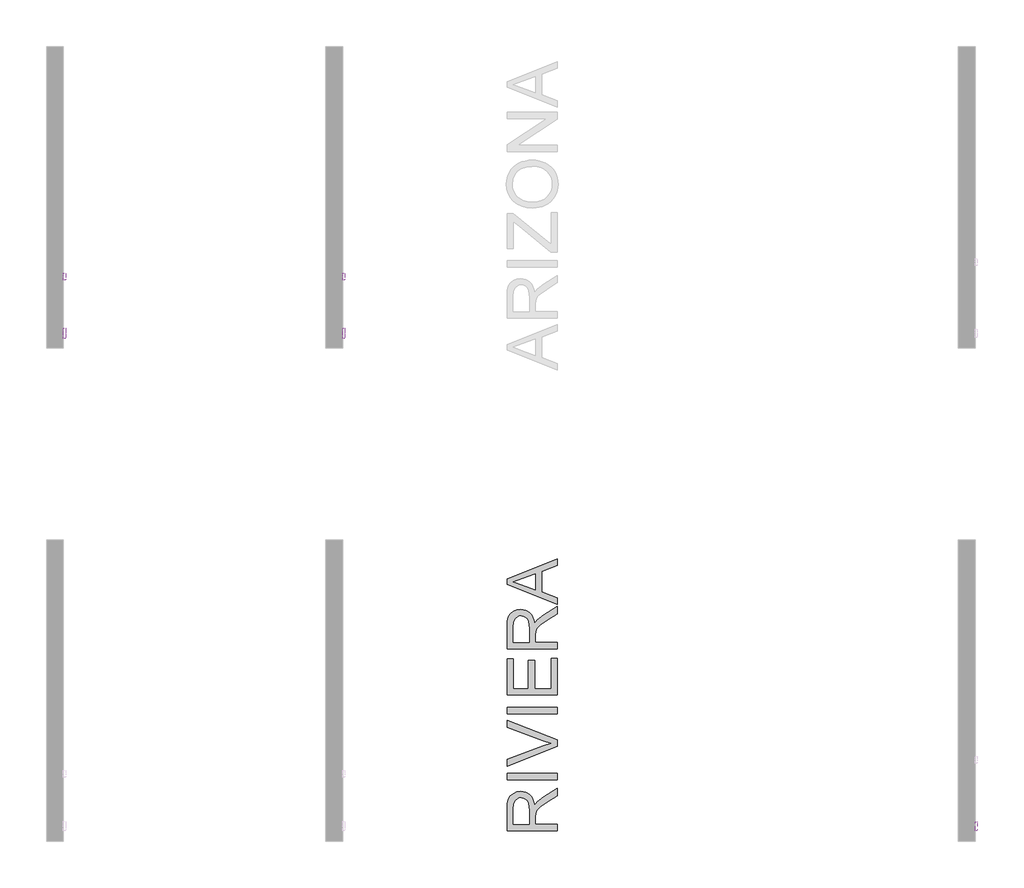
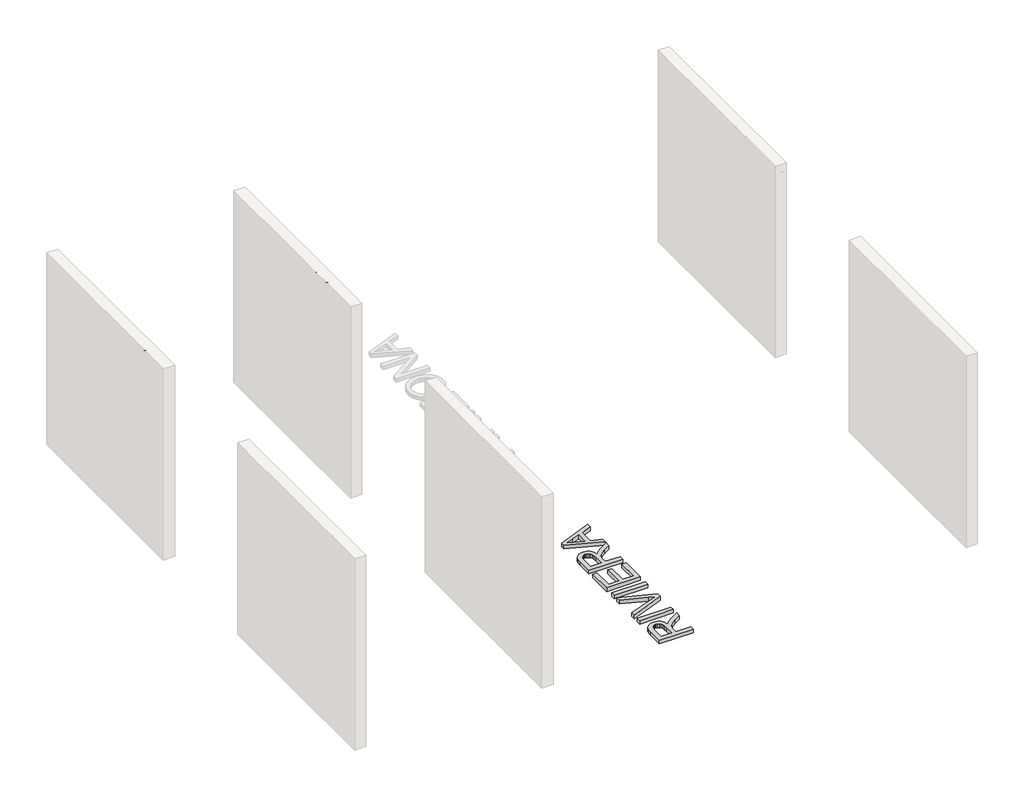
# One storey, part 3 of 11: 6 proxies.
"""IFC4 building model written with IfcOpenShell, lengths in millimetres."""

import ifcopenshell
import ifcopenshell.guid

model = None  # the IFC model being written
_history = None  # IfcOwnerHistory: only IFC2X3 demands one
_inside = {}  # id of a spatial element -> (the spatial element, [elements in it])
_under = {}  # id of a project, library or spatial element -> (it, [spatial elements below it])
_declared = {}  # id of a project -> (the project, [libraries it declares])
_typed = {}  # id of a type object -> (the type object, [elements of that type])
_made_of = {}  # id of a material, layer set ... -> (it, [elements and type objects made of it])


def new_model(schema):
    """Start an empty IFC model of exactly this schema.

    Asked for "IFC4X3", IfcOpenShell would pick the latest addendum, in which some entities
    have other attributes; the version numbers below select the first issue.
    IFC2X3 requires an IfcOwnerHistory on every rooted entity: one is made here for all.
    """
    global model, _history
    if schema == "IFC4X3":
        model = ifcopenshell.file(schema_version=(4, 3, 0, 0))
    else:
        model = ifcopenshell.file(schema=schema)
    _inside.clear()
    _under.clear()
    _declared.clear()
    _typed.clear()
    _made_of.clear()
    _history = None
    if model.schema == "IFC2X3":
        org = make("IfcOrganization", Name="unknown")
        user = make(
            "IfcPersonAndOrganization",
            ThePerson=make("IfcPerson", FamilyName="unknown"),
            TheOrganization=org,
        )
        app = make(
            "IfcApplication",
            ApplicationDeveloper=org,
            Version="unknown",
            ApplicationFullName="unknown",
            ApplicationIdentifier="unknown",
        )
        _history = make(
            "IfcOwnerHistory",
            OwningUser=user,
            OwningApplication=app,
            ChangeAction="ADDED",
            CreationDate=0,
        )
    return model


def make(cls, **values):
    """One entity of the class cls with the attributes given. An attribute that is None is left unset."""
    return model.create_entity(
        cls, **{name: value for name, value in values.items() if value is not None}
    )


def rooted(cls, **values):
    """An entity with a GlobalId (a new one), such as an element, a storey or a relation."""
    return make(cls, GlobalId=ifcopenshell.guid.new(), OwnerHistory=_history, **values)


def si_unit(unit_type, name, prefix=None):
    """IfcSIUnit, for example si_unit("LENGTHUNIT", "METRE", prefix="MILLI")."""
    return make("IfcSIUnit", UnitType=unit_type, Prefix=prefix, Name=name)


def assignment(units):
    """IfcUnitAssignment: the units of a project."""
    return None if units is None else make("IfcUnitAssignment", Units=units)


def point(xyz):
    """IfcCartesianPoint."""
    return None if xyz is None else make("IfcCartesianPoint", Coordinates=xyz)


def direction(xyz):
    """IfcDirection."""
    return None if xyz is None else make("IfcDirection", DirectionRatios=xyz)


def frame(location, z_axis=None, x_axis=None):
    """IfcAxis2Placement3D, a coordinate frame: its origin and axes. An axis left out is left unset."""
    return make(
        "IfcAxis2Placement3D",
        Location=point(location),
        Axis=direction(z_axis),
        RefDirection=direction(x_axis),
    )


def origin():
    """The frame at (0, 0, 0) with its axes left unset."""
    return frame((0.0, 0.0, 0.0))


def origin_with_axes():
    """The frame at (0, 0, 0) with the z axis (0, 0, 1) and the x axis (1, 0, 0) written out."""
    return frame((0.0, 0.0, 0.0), z_axis=(0.0, 0.0, 1.0), x_axis=(1.0, 0.0, 0.0))


def place(relative_to, where):
    """IfcLocalPlacement: puts the frame where relative to a parent placement (None: the world)."""
    return make(
        "IfcLocalPlacement", PlacementRelTo=relative_to, RelativePlacement=where
    )


def context(
    kind, dimensions, precision=None, world=None, true_north=None, identifier=None
):
    """IfcGeometricRepresentationContext, for example the 3D "Model" context."""
    return make(
        "IfcGeometricRepresentationContext",
        ContextIdentifier=identifier,
        ContextType=kind,
        CoordinateSpaceDimension=dimensions,
        Precision=precision,
        WorldCoordinateSystem=world,
        TrueNorth=true_north,
    )


def project(units=None, contexts=None):
    """IfcProject with its units and contexts."""
    return rooted(
        "IfcProject",
        Name="project",
        RepresentationContexts=contexts,
        UnitsInContext=assignment(units),
    )


def spatial(cls, under=None, at=None, **own):
    """A site, building, storey or space (cls), placed at a placement, below another one or the project."""
    s = rooted(cls, ObjectPlacement=at, **own)
    if under is not None:
        _under.setdefault(under.id(), (under, []))[1].append(s)
    return s


def polyline(points):
    """IfcPolyline through the points."""
    return make("IfcPolyline", Points=[point(p) for p in points])


def outline(outer, holes=None, kind="AREA"):
    """IfcArbitraryClosedProfileDef: a profile drawn as a closed curve; with holes, ...WithVoids."""
    if holes is None:
        return make("IfcArbitraryClosedProfileDef", ProfileType=kind, OuterCurve=outer)
    return make(
        "IfcArbitraryProfileDefWithVoids",
        ProfileType=kind,
        OuterCurve=outer,
        InnerCurves=holes,
    )


def extrude(swept, where, along, depth):
    """IfcExtrudedAreaSolid: the profile swept, set in the frame where, extruded along a direction by depth."""
    return make(
        "IfcExtrudedAreaSolid",
        SweptArea=swept,
        Position=where,
        ExtrudedDirection=direction(along),
        Depth=depth,
    )


def shape(context_of_items, identifier, shape_type, items):
    """IfcShapeRepresentation: the items that make up one representation, for example the "Body"."""
    return make(
        "IfcShapeRepresentation",
        ContextOfItems=context_of_items,
        RepresentationIdentifier=identifier,
        RepresentationType=shape_type,
        Items=items,
    )


def made_of(thing, what):
    """Note that an element or type object is made of a material, layer set ...; save() writes the relation."""
    if what is not None:
        _made_of.setdefault(what.id(), (what, []))[1].append(thing)
    return thing


def element(
    cls,
    number,
    at=None,
    inside=None,
    cuts=None,
    type_object=None,
    material=None,
    context=None,
    identifier="Body",
    shape_type=None,
    held_by="IfcProductDefinitionShape",
    body=None,
    shapes=None,
    **own,
):
    """One element of the class cls, such as IfcWall. Its Tag is "e" and its number.

    at: its placement. inside: the storey or other place that contains it. cuts: it is an
    opening in that element (IfcRelVoidsElement). A single representation is given by context,
    identifier, shape_type and body (its items); several are given by shapes. held_by: the class
    of the entity that holds the representations. save() writes the other relations.
    """
    e = rooted(cls, Tag="e%d" % number, ObjectPlacement=at, **own)
    if body is not None:
        shapes = [shape(context, identifier, shape_type, body)]
    if shapes is not None:
        e.Representation = make(held_by, Representations=shapes)
    if inside is not None:
        _inside.setdefault(inside.id(), (inside, []))[1].append(e)
    if cuts is not None:
        rooted(
            "IfcRelVoidsElement", RelatingBuildingElement=cuts, RelatedOpeningElement=e
        )
    if type_object is not None:
        _typed.setdefault(type_object.id(), (type_object, []))[1].append(e)
    return made_of(e, material)


def aggregate(whole, parts):
    """IfcRelAggregates: a whole, such as a stair, and the parts it consists of."""
    return rooted("IfcRelAggregates", RelatingObject=whole, RelatedObjects=parts)


def save(model, path):
    """Write the relations noted so far, then the file.

    IfcRelAggregates (storeys below a building ...), IfcRelContainedInSpatialStructure (elements
    in a storey), IfcRelDefinesByType, IfcRelAssociatesMaterial and IfcRelDeclares: one each for
    every whole, place, type object, material and project.
    """
    for whole, parts in _under.values():
        aggregate(whole, parts)
    for where, things in _inside.values():
        rooted(
            "IfcRelContainedInSpatialStructure",
            RelatedElements=things,
            RelatingStructure=where,
        )
    for kind, things in _typed.values():
        rooted("IfcRelDefinesByType", RelatedObjects=things, RelatingType=kind)
    for what, things in _made_of.values():
        rooted("IfcRelAssociatesMaterial", RelatedObjects=things, RelatingMaterial=what)
    for by, libraries in _declared.values():
        rooted("IfcRelDeclares", RelatingContext=by, RelatedDefinitions=libraries)
    model.write(path)


model = new_model("IFC4")

# Units and contexts
model_context = context("Model", 3, world=origin())
ifc_project = project(units=[si_unit("LENGTHUNIT", "METRE", prefix="MILLI")], contexts=[model_context])

# Site, building, storey
site = spatial("IfcSite", under=ifc_project)
building = spatial("IfcBuilding", under=site)
storey = spatial("IfcBuildingStorey", under=building, Name="PORTOBELLO - SHOWROOM", Elevation=0.0)

# Proxies
placement = place(None, origin())
element("IfcBuildingElementProxy", 1, Name="10mm Arial", ObjectType="10mm Arial", at=placement, inside=storey, context=model_context, shape_type="SweptSolid", body=[
    extrude(outline(polyline([(-2771.7495633, 2478.2261649), (-2731.6504259, 2578.6824751), (-2720.9573225, 2578.6824751), (-2680.8581851, 2478.2261649), (-2694.1264623, 2478.2261649), (-2705.6289061, 2509.6187619), (-2747.0033678, 2509.6187619), (-2758.481286, 2478.2261649), (-2771.7495633, 2478.2261649)]), holes=[polyline([(-2742.3925801, 2522.1758006), (-2710.2151683, 2522.1758006), (-2719.2650653, 2546.8729452), (-2726.3038742, 2566.1254363), (-2732.5578681, 2549.0311863), (-2742.3925801, 2522.1758006)])]), frame((-24947.8341365, 0.0, 0.0), z_axis=(1.0, 0.0, 0.0), x_axis=(0.0, 1.0, 0.0)), (0.0, 0.0, 1.0), 20.0),
    extrude(outline(polyline([(-2669.0123848, 2478.2261649), (-2669.0123848, 2551.9987677), (-2658.0249759, 2551.9987677), (-2658.0249759, 2541.0849352), (-2650.2258776, 2551.1403764), (-2642.3777284, 2553.5683975), (-2629.7716387, 2549.6933739), (-2633.9654934, 2538.4361848), (-2642.7946613, 2541.0113588), (-2649.8947838, 2538.5342867), (-2654.4197323, 2531.6671561), (-2656.455346, 2517.0009272), (-2656.455346, 2478.2261649), (-2669.0123848, 2478.2261649)])), frame((-24947.8341365, 0.0, 0.0), z_axis=(1.0, 0.0, 0.0), x_axis=(0.0, 1.0, 0.0)), (0.0, 0.0, 1.0), 20.0),
    extrude(outline(polyline([(-24927.8341365, -2609.3664507), (-24927.8341365, -2621.9234894), (-24947.8341365, -2621.9234894), (-24947.8341365, -2609.3664507), (-24927.8341365, -2609.3664507)])), frame((0.0, 0.0, 2566.1254363), z_axis=(0.0, 0.0, 1.0), x_axis=(1.0, 0.0, 0.0)), (0.0, 0.0, 1.0), 12.5570388),
    extrude(outline(polyline([(-24927.8341365, -2609.3664507), (-24927.8341365, -2621.9234894), (-24947.8341365, -2621.9234894), (-24947.8341365, -2609.3664507), (-24927.8341365, -2609.3664507)])), frame((0.0, 0.0, 2478.2261649), z_axis=(0.0, 0.0, 1.0), x_axis=(1.0, 0.0, 0.0)), (0.0, 0.0, 1.0), 73.7726028),
    extrude(outline(polyline([(-2598.3790417, 2478.2261649), (-2598.3790417, 2490.0474397), (-2555.0425427, 2539.4417289), (-2567.8693616, 2539.4417289), (-2595.239782, 2539.4417289), (-2595.239782, 2551.9987677), (-2537.1634777, 2551.9987677), (-2537.1634777, 2541.3301898), (-2575.5948835, 2497.5031815), (-2581.4809954, 2490.7832037), (-2566.9619193, 2490.7832037), (-2535.5938479, 2490.7832037), (-2535.5938479, 2478.2261649), (-2598.3790417, 2478.2261649)])), frame((-24947.8341365, 0.0, 0.0), z_axis=(1.0, 0.0, 0.0), x_axis=(0.0, 1.0, 0.0)), (0.0, 0.0, 1.0), 20.0),
    extrude(outline(polyline([(-2526.1760688, 2515.1124663), (-2523.4598734, 2532.8995608), (-2515.3112872, 2545.4014173), (-2505.2435833, 2551.5266525), (-2493.1893166, 2553.5683975), (-2479.9976814, 2551.0821284), (-2469.4609279, 2543.6233209), (-2462.5539434, 2531.7805864), (-2460.2516153, 2516.1425359), (-2464.3228427, 2493.7998361), (-2476.1809057, 2481.1569582), (-2493.1893166, 2476.6565351), (-2506.5403673, 2479.1336072), (-2517.0648581, 2486.5648235), (-2523.8982661, 2498.6558784), (-2526.1760688, 2515.1124663)]), holes=[polyline([(-2513.61903, 2515.1369918), (-2512.1658962, 2503.7725038), (-2507.8064945, 2495.6760342), (-2501.2459323, 2490.829189), (-2493.1893166, 2489.2135739), (-2485.1694891, 2490.838386), (-2478.6211896, 2495.7128224), (-2474.2617879, 2503.9165909), (-2472.808654, 2515.5293992), (-2474.270985, 2526.5627934), (-2478.6579778, 2534.5488984), (-2485.2154743, 2539.3957437), (-2493.1893166, 2541.0113588), (-2501.2459323, 2539.401875), (-2507.8064945, 2534.5734239), (-2512.1658962, 2526.4953484), (-2513.61903, 2515.1369918)])]), frame((-24947.8341365, 0.0, 0.0), z_axis=(1.0, 0.0, 0.0), x_axis=(0.0, 1.0, 0.0)), (0.0, 0.0, 1.0), 20.0),
    extrude(outline(polyline([(-2446.1249467, 2478.2261649), (-2446.1249467, 2551.9987677), (-2433.5679079, 2551.9987677), (-2433.5679079, 2541.6980718), (-2423.9661878, 2550.6008161), (-2410.8573261, 2553.5683975), (-2398.9992631, 2551.1771646), (-2390.9058592, 2544.8986452), (-2387.1412001, 2535.6648071), (-2386.4790125, 2523.5247013), (-2386.4790125, 2478.2261649), (-2399.0360513, 2478.2261649), (-2399.0360513, 2521.8324441), (-2400.4830538, 2532.9424804), (-2405.5966135, 2538.8163295), (-2414.2173149, 2541.0113588), (-2427.8412115, 2536.08174), (-2432.1362338, 2528.938698), (-2433.5679079, 2517.3688092), (-2433.5679079, 2478.2261649), (-2446.1249467, 2478.2261649)])), frame((-24947.8341365, 0.0, 0.0), z_axis=(1.0, 0.0, 0.0), x_axis=(0.0, 1.0, 0.0)), (0.0, 0.0, 1.0), 20.0),
    extrude(outline(polyline([(-2322.1241888, 2487.643944), (-2334.3010829, 2479.1336072), (-2347.7533012, 2476.6565351), (-2358.2471351, 2478.1464572), (-2365.9879854, 2482.6162234), (-2370.7612543, 2489.4036462), (-2372.3523439, 2497.846538), (-2369.9488482, 2507.7793519), (-2363.6335406, 2514.989839), (-2354.8411609, 2519.1101173), (-2343.9763793, 2520.9985782), (-2322.1977652, 2525.3150603), (-2322.1241888, 2528.1109635), (-2325.5822796, 2537.3815898), (-2339.4636935, 2541.0113588), (-2352.1678851, 2538.5956003), (-2358.2256753, 2530.0239499), (-2370.782714, 2531.5935797), (-2365.3503233, 2543.8563129), (-2354.4119653, 2551.0422745), (-2337.8450127, 2553.5683975), (-2322.6269609, 2551.3365801), (-2314.0307849, 2545.732511), (-2310.1802867, 2537.2099115), (-2309.5671501, 2526.2225026), (-2309.5671501, 2510.5997805), (-2308.9294879, 2488.7843782), (-2306.4278904, 2478.2261649), (-2318.9849291, 2478.2261649), (-2322.1241888, 2487.643944)]), holes=[polyline([(-2322.1241888, 2512.7580215), (-2342.382224, 2508.9075233), (-2353.1856919, 2506.8719096), (-2358.0785225, 2503.5609717), (-2359.7953051, 2498.7294548), (-2356.0551715, 2491.9359006), (-2345.0800253, 2489.2135739), (-2332.3758338, 2492.2179435), (-2324.184328, 2499.4897443), (-2322.1977652, 2509.2018289), (-2322.1241888, 2512.7580215)])]), frame((-24947.8341365, 0.0, 0.0), z_axis=(1.0, 0.0, 0.0), x_axis=(0.0, 1.0, 0.0)), (0.0, 0.0, 1.0), 20.0),
])
element("IfcBuildingElementProxy", 2, Name="10mm Arial", ObjectType="10mm Arial", at=placement, inside=storey, context=model_context, shape_type="SweptSolid", body=[
    extrude(outline(polyline([(-2771.7495633, 2478.2261649), (-2731.6504259, 2578.6824751), (-2720.9573225, 2578.6824751), (-2680.8581851, 2478.2261649), (-2694.1264623, 2478.2261649), (-2705.6289061, 2509.6187619), (-2747.0033678, 2509.6187619), (-2758.481286, 2478.2261649), (-2771.7495633, 2478.2261649)]), holes=[polyline([(-2742.3925801, 2522.1758006), (-2710.2151683, 2522.1758006), (-2719.2650653, 2546.8729452), (-2726.3038742, 2566.1254363), (-2732.5578681, 2549.0311863), (-2742.3925801, 2522.1758006)])]), frame((-27447.8341365, 0.0, 0.0), z_axis=(1.0, 0.0, 0.0), x_axis=(0.0, 1.0, 0.0)), (0.0, 0.0, 1.0), 20.0),
    extrude(outline(polyline([(-2669.0123848, 2478.2261649), (-2669.0123848, 2551.9987677), (-2658.0249759, 2551.9987677), (-2658.0249759, 2541.0849352), (-2650.2258776, 2551.1403764), (-2642.3777284, 2553.5683975), (-2629.7716387, 2549.6933739), (-2633.9654934, 2538.4361848), (-2642.7946613, 2541.0113588), (-2649.8947838, 2538.5342867), (-2654.4197323, 2531.6671561), (-2656.455346, 2517.0009272), (-2656.455346, 2478.2261649), (-2669.0123848, 2478.2261649)])), frame((-27447.8341365, 0.0, 0.0), z_axis=(1.0, 0.0, 0.0), x_axis=(0.0, 1.0, 0.0)), (0.0, 0.0, 1.0), 20.0),
    extrude(outline(polyline([(-27427.8341365, -2609.3664507), (-27427.8341365, -2621.9234894), (-27447.8341365, -2621.9234894), (-27447.8341365, -2609.3664507), (-27427.8341365, -2609.3664507)])), frame((0.0, 0.0, 2566.1254363), z_axis=(0.0, 0.0, 1.0), x_axis=(1.0, 0.0, 0.0)), (0.0, 0.0, 1.0), 12.5570388),
    extrude(outline(polyline([(-27427.8341365, -2609.3664507), (-27427.8341365, -2621.9234894), (-27447.8341365, -2621.9234894), (-27447.8341365, -2609.3664507), (-27427.8341365, -2609.3664507)])), frame((0.0, 0.0, 2478.2261649), z_axis=(0.0, 0.0, 1.0), x_axis=(1.0, 0.0, 0.0)), (0.0, 0.0, 1.0), 73.7726028),
    extrude(outline(polyline([(-2598.3790417, 2478.2261649), (-2598.3790417, 2490.0474397), (-2555.0425427, 2539.4417289), (-2567.8693616, 2539.4417289), (-2595.239782, 2539.4417289), (-2595.239782, 2551.9987677), (-2537.1634777, 2551.9987677), (-2537.1634777, 2541.3301898), (-2575.5948835, 2497.5031815), (-2581.4809954, 2490.7832037), (-2566.9619193, 2490.7832037), (-2535.5938479, 2490.7832037), (-2535.5938479, 2478.2261649), (-2598.3790417, 2478.2261649)])), frame((-27447.8341365, 0.0, 0.0), z_axis=(1.0, 0.0, 0.0), x_axis=(0.0, 1.0, 0.0)), (0.0, 0.0, 1.0), 20.0),
    extrude(outline(polyline([(-2526.1760688, 2515.1124663), (-2523.4598734, 2532.8995608), (-2515.3112872, 2545.4014173), (-2505.2435833, 2551.5266525), (-2493.1893166, 2553.5683975), (-2479.9976814, 2551.0821284), (-2469.4609279, 2543.6233209), (-2462.5539434, 2531.7805864), (-2460.2516153, 2516.1425359), (-2464.3228427, 2493.7998361), (-2476.1809057, 2481.1569582), (-2493.1893166, 2476.6565351), (-2506.5403673, 2479.1336072), (-2517.0648581, 2486.5648235), (-2523.8982661, 2498.6558784), (-2526.1760688, 2515.1124663)]), holes=[polyline([(-2513.61903, 2515.1369918), (-2512.1658962, 2503.7725038), (-2507.8064945, 2495.6760342), (-2501.2459323, 2490.829189), (-2493.1893166, 2489.2135739), (-2485.1694891, 2490.838386), (-2478.6211896, 2495.7128224), (-2474.2617879, 2503.9165909), (-2472.808654, 2515.5293992), (-2474.270985, 2526.5627934), (-2478.6579778, 2534.5488984), (-2485.2154743, 2539.3957437), (-2493.1893166, 2541.0113588), (-2501.2459323, 2539.401875), (-2507.8064945, 2534.5734239), (-2512.1658962, 2526.4953484), (-2513.61903, 2515.1369918)])]), frame((-27447.8341365, 0.0, 0.0), z_axis=(1.0, 0.0, 0.0), x_axis=(0.0, 1.0, 0.0)), (0.0, 0.0, 1.0), 20.0),
    extrude(outline(polyline([(-2446.1249467, 2478.2261649), (-2446.1249467, 2551.9987677), (-2433.5679079, 2551.9987677), (-2433.5679079, 2541.6980718), (-2423.9661878, 2550.6008161), (-2410.8573261, 2553.5683975), (-2398.9992631, 2551.1771646), (-2390.9058592, 2544.8986452), (-2387.1412001, 2535.6648071), (-2386.4790125, 2523.5247013), (-2386.4790125, 2478.2261649), (-2399.0360513, 2478.2261649), (-2399.0360513, 2521.8324441), (-2400.4830538, 2532.9424804), (-2405.5966135, 2538.8163295), (-2414.2173149, 2541.0113588), (-2427.8412115, 2536.08174), (-2432.1362338, 2528.938698), (-2433.5679079, 2517.3688092), (-2433.5679079, 2478.2261649), (-2446.1249467, 2478.2261649)])), frame((-27447.8341365, 0.0, 0.0), z_axis=(1.0, 0.0, 0.0), x_axis=(0.0, 1.0, 0.0)), (0.0, 0.0, 1.0), 20.0),
    extrude(outline(polyline([(-2322.1241888, 2487.643944), (-2334.3010829, 2479.1336072), (-2347.7533012, 2476.6565351), (-2358.2471351, 2478.1464572), (-2365.9879854, 2482.6162234), (-2370.7612543, 2489.4036462), (-2372.3523439, 2497.846538), (-2369.9488482, 2507.7793519), (-2363.6335406, 2514.989839), (-2354.8411609, 2519.1101173), (-2343.9763793, 2520.9985782), (-2322.1977652, 2525.3150603), (-2322.1241888, 2528.1109635), (-2325.5822796, 2537.3815898), (-2339.4636935, 2541.0113588), (-2352.1678851, 2538.5956003), (-2358.2256753, 2530.0239499), (-2370.782714, 2531.5935797), (-2365.3503233, 2543.8563129), (-2354.4119653, 2551.0422745), (-2337.8450127, 2553.5683975), (-2322.6269609, 2551.3365801), (-2314.0307849, 2545.732511), (-2310.1802867, 2537.2099115), (-2309.5671501, 2526.2225026), (-2309.5671501, 2510.5997805), (-2308.9294879, 2488.7843782), (-2306.4278904, 2478.2261649), (-2318.9849291, 2478.2261649), (-2322.1241888, 2487.643944)]), holes=[polyline([(-2322.1241888, 2512.7580215), (-2342.382224, 2508.9075233), (-2353.1856919, 2506.8719096), (-2358.0785225, 2503.5609717), (-2359.7953051, 2498.7294548), (-2356.0551715, 2491.9359006), (-2345.0800253, 2489.2135739), (-2332.3758338, 2492.2179435), (-2324.184328, 2499.4897443), (-2322.1977652, 2509.2018289), (-2322.1241888, 2512.7580215)])]), frame((-27447.8341365, 0.0, 0.0), z_axis=(1.0, 0.0, 0.0), x_axis=(0.0, 1.0, 0.0)), (0.0, 0.0, 1.0), 20.0),
])
element("IfcBuildingElementProxy", 3, Name="10mm Arial", ObjectType="10mm Arial", at=placement, inside=storey, context=model_context, shape_type="SweptSolid", body=[
    extrude(outline(polyline([(-7180.0509159, 2478.2261649), (-7180.0509159, 2578.6824751), (-7166.6109603, 2578.6824751), (-7114.1264623, 2499.0973368), (-7114.1264623, 2578.6824751), (-7101.5694236, 2578.6824751), (-7101.5694236, 2478.2261649), (-7115.0093791, 2478.2261649), (-7167.4938771, 2557.8358287), (-7167.4938771, 2478.2261649), (-7180.0509159, 2478.2261649)])), frame((-19283.2092306, 0.0, 0.0), z_axis=(1.0, 0.0, 0.0), x_axis=(0.0, 1.0, 0.0)), (0.0, 0.0, 1.0), 20.0),
    extrude(outline(polyline([(-7084.3034953, 2515.1124663), (-7081.5872999, 2532.8995608), (-7073.4387137, 2545.4014173), (-7063.3710097, 2551.5266525), (-7051.316743, 2553.5683975), (-7038.1251078, 2551.0821284), (-7027.5883543, 2543.6233209), (-7020.6813699, 2531.7805864), (-7018.3790417, 2516.1425359), (-7022.4502691, 2493.7998361), (-7034.3083321, 2481.1569582), (-7051.316743, 2476.6565351), (-7064.6677938, 2479.1336072), (-7075.1922845, 2486.5648235), (-7082.0256926, 2498.6558784), (-7084.3034953, 2515.1124663)]), holes=[polyline([(-7071.7464565, 2515.1369918), (-7070.2933226, 2503.7725038), (-7065.933921, 2495.6760342), (-7059.3733587, 2490.829189), (-7051.316743, 2489.2135739), (-7043.2969155, 2490.838386), (-7036.748616, 2495.7128224), (-7032.3892144, 2503.9165909), (-7030.9360805, 2515.5293992), (-7032.3984114, 2526.5627934), (-7036.7854042, 2534.5488984), (-7043.3429008, 2539.3957437), (-7051.316743, 2541.0113588), (-7059.3733587, 2539.401875), (-7065.933921, 2534.5734239), (-7070.2933226, 2526.4953484), (-7071.7464565, 2515.1369918)])]), frame((-19283.2092306, 0.0, 0.0), z_axis=(1.0, 0.0, 0.0), x_axis=(0.0, 1.0, 0.0)), (0.0, 0.0, 1.0), 20.0),
    extrude(outline(polyline([(-7004.2523731, 2478.2261649), (-7004.2523731, 2551.9987677), (-6993.2649642, 2551.9987677), (-6993.2649642, 2541.0849352), (-6985.4658659, 2551.1403764), (-6977.6177167, 2553.5683975), (-6965.011627, 2549.6933739), (-6969.2054817, 2538.4361848), (-6978.0346496, 2541.0113588), (-6985.1347721, 2538.5342867), (-6989.6597206, 2531.6671561), (-6991.6953343, 2517.0009272), (-6991.6953343, 2478.2261649), (-7004.2523731, 2478.2261649)])), frame((-19283.2092306, 0.0, 0.0), z_axis=(1.0, 0.0, 0.0), x_axis=(0.0, 1.0, 0.0)), (0.0, 0.0, 1.0), 20.0),
    extrude(outline(polyline([(-6960.3027374, 2515.1124663), (-6957.586542, 2532.8995608), (-6949.4379558, 2545.4014173), (-6939.3702519, 2551.5266525), (-6927.3159852, 2553.5683975), (-6914.12435, 2551.0821284), (-6903.5875965, 2543.6233209), (-6896.680612, 2531.7805864), (-6894.3782839, 2516.1425359), (-6898.4495113, 2493.7998361), (-6910.3075743, 2481.1569582), (-6927.3159852, 2476.6565351), (-6940.6670359, 2479.1336072), (-6951.1915267, 2486.5648235), (-6958.0249347, 2498.6558784), (-6960.3027374, 2515.1124663)]), holes=[polyline([(-6947.7456987, 2515.1369918), (-6946.2925648, 2503.7725038), (-6941.9331631, 2495.6760342), (-6935.3726009, 2490.829189), (-6927.3159852, 2489.2135739), (-6919.2961577, 2490.838386), (-6912.7478582, 2495.7128224), (-6908.3884565, 2503.9165909), (-6906.9353227, 2515.5293992), (-6908.3976536, 2526.5627934), (-6912.7846464, 2534.5488984), (-6919.3421429, 2539.3957437), (-6927.3159852, 2541.0113588), (-6935.3726009, 2539.401875), (-6941.9331631, 2534.5734239), (-6946.2925648, 2526.4953484), (-6947.7456987, 2515.1369918)])]), frame((-19283.2092306, 0.0, 0.0), z_axis=(1.0, 0.0, 0.0), x_axis=(0.0, 1.0, 0.0)), (0.0, 0.0, 1.0), 20.0),
    extrude(outline(polyline([(-6880.2516153, 2478.2261649), (-6880.2516153, 2551.9987677), (-6867.6945765, 2551.9987677), (-6867.6945765, 2541.6980718), (-6858.0928564, 2550.6008161), (-6844.9839947, 2553.5683975), (-6833.1259317, 2551.1771646), (-6825.0325278, 2544.8986452), (-6821.2678687, 2535.6648071), (-6820.6056811, 2523.5247013), (-6820.6056811, 2478.2261649), (-6833.1627199, 2478.2261649), (-6833.1627199, 2521.8324441), (-6834.6097224, 2532.9424804), (-6839.7232821, 2538.8163295), (-6848.3439836, 2541.0113588), (-6861.9678801, 2536.08174), (-6866.2629024, 2528.938698), (-6867.6945765, 2517.3688092), (-6867.6945765, 2478.2261649), (-6880.2516153, 2478.2261649)])), frame((-19283.2092306, 0.0, 0.0), z_axis=(1.0, 0.0, 0.0), x_axis=(0.0, 1.0, 0.0)), (0.0, 0.0, 1.0), 20.0),
    extrude(outline(polyline([(-6803.3397528, 2478.2261649), (-6803.3397528, 2578.6824751), (-6790.782714, 2578.6824751), (-6790.782714, 2541.7471228), (-6780.9909216, 2550.6130789), (-6768.9305235, 2553.5683975), (-6754.8283804, 2550.3432987), (-6746.2689926, 2541.4282917), (-6743.6938187, 2524.9226529), (-6743.6938187, 2478.2261649), (-6756.2508574, 2478.2261649), (-6756.2508574, 2523.6228031), (-6760.2485085, 2536.866555), (-6771.5792739, 2541.0113588), (-6781.867707, 2538.2154556), (-6788.7348376, 2530.6370865), (-6790.782714, 2517.4178602), (-6790.782714, 2478.2261649), (-6803.3397528, 2478.2261649)])), frame((-19283.2092306, 0.0, 0.0), z_axis=(1.0, 0.0, 0.0), x_axis=(0.0, 1.0, 0.0)), (0.0, 0.0, 1.0), 20.0),
    extrude(outline(polyline([(-6679.338995, 2487.643944), (-6691.515889, 2479.1336072), (-6704.9681073, 2476.6565351), (-6715.4619412, 2478.1464572), (-6723.2027915, 2482.6162234), (-6727.9760604, 2489.4036462), (-6729.5671501, 2497.846538), (-6727.1636544, 2507.7793519), (-6720.8483468, 2514.989839), (-6712.0559671, 2519.1101173), (-6701.1911855, 2520.9985782), (-6679.4125714, 2525.3150603), (-6679.338995, 2528.1109635), (-6682.7970857, 2537.3815898), (-6696.6784997, 2541.0113588), (-6709.3826913, 2538.5956003), (-6715.4404814, 2530.0239499), (-6727.9975202, 2531.5935797), (-6722.5651294, 2543.8563129), (-6711.6267714, 2551.0422745), (-6695.0598189, 2553.5683975), (-6679.841767, 2551.3365801), (-6671.2455911, 2545.732511), (-6667.3950929, 2537.2099115), (-6666.7819562, 2526.2225026), (-6666.7819562, 2510.5997805), (-6666.1442941, 2488.7843782), (-6663.6426965, 2478.2261649), (-6676.1997353, 2478.2261649), (-6679.338995, 2487.643944)]), holes=[polyline([(-6679.338995, 2512.7580215), (-6699.5970302, 2508.9075233), (-6710.4004981, 2506.8719096), (-6715.2933286, 2503.5609717), (-6717.0101113, 2498.7294548), (-6713.2699777, 2491.9359006), (-6702.2948315, 2489.2135739), (-6689.5906399, 2492.2179435), (-6681.3991342, 2499.4897443), (-6679.4125714, 2509.2018289), (-6679.338995, 2512.7580215)])]), frame((-19283.2092306, 0.0, 0.0), z_axis=(1.0, 0.0, 0.0), x_axis=(0.0, 1.0, 0.0)), (0.0, 0.0, 1.0), 20.0),
])
element("IfcBuildingElementProxy", 4, Name="10mm Arial Narrow", ObjectType="10mm Arial Narrow", at=placement, inside=storey, context=model_context, shape_type="SweptSolid", body=[
    extrude(outline(polyline([(-2247.9158568, 2478.2261649), (-2247.9158568, 2578.9447687), (-2216.6189721, 2578.9447687), (-2200.3232706, 2577.066448), (-2188.8502844, 2567.5860048), (-2184.560606, 2550.566896), (-2186.3469144, 2538.4910704), (-2191.7058396, 2528.8646766), (-2201.4496284, 2522.5634182), (-2216.3905277, 2520.4629988), (-2238.1688951, 2520.4629988), (-2238.1688951, 2478.2261649), (-2247.9158568, 2478.2261649)]), holes=[polyline([(-2238.1688951, 2531.834454), (-2215.1975402, 2531.834454), (-2199.3333448, 2536.3652682), (-2194.3075677, 2550.033859), (-2196.7823821, 2560.1996354), (-2202.760011, 2565.9995852), (-2215.4259846, 2567.5733134), (-2238.1688951, 2567.5733134), (-2238.1688951, 2531.834454)])]), frame((-24947.8341365, 0.0, 0.0), z_axis=(1.0, 0.0, 0.0), x_axis=(0.0, 1.0, 0.0)), (0.0, 0.0, 1.0), 20.0),
    extrude(outline(polyline([(-2176.438138, 2514.7772711), (-2174.4836691, 2531.3680467), (-2168.6202625, 2543.3201315), (-2159.7616958, 2550.5446861), (-2148.8217466, 2552.9528709), (-2138.008711, 2550.5446861), (-2129.1247616, 2543.3201315), (-2123.1852068, 2531.558417), (-2121.2053553, 2515.5387525), (-2123.1503056, 2498.3768659), (-2128.9851567, 2486.2344108), (-2137.8342049, 2479.0098562), (-2148.8217466, 2476.6016713), (-2159.6823748, 2479.0162019), (-2168.5568057, 2486.2597935), (-2174.4678049, 2498.218224), (-2176.438138, 2514.7772711)]), holes=[polyline([(-2166.6911763, 2514.8026538), (-2165.3871394, 2502.2509024), (-2161.4750289, 2493.3796444), (-2155.6338321, 2488.1063858), (-2148.5425368, 2486.348633), (-2141.8224636, 2488.12225), (-2136.1303903, 2493.4431012), (-2132.2468353, 2502.3302234), (-2130.9523169, 2514.8026538), (-2132.2563538, 2527.3163312), (-2136.1684644, 2536.1748979), (-2142.0096611, 2541.4481564), (-2149.1009565, 2543.2059093), (-2155.8686222, 2541.4386379), (-2161.551177, 2536.1368238), (-2165.4061765, 2527.2687386), (-2166.6911763, 2514.8026538)])]), frame((-24947.8341365, 0.0, 0.0), z_axis=(1.0, 0.0, 0.0), x_axis=(0.0, 1.0, 0.0)), (0.0, 0.0, 1.0), 20.0),
    extrude(outline(polyline([(-2049.7276365, 2486.348633), (-2048.1031429, 2476.6016713), (-2055.4641295, 2476.6016713), (-2063.7388938, 2478.7211278), (-2068.053955, 2484.5210777), (-2069.2215598, 2499.1669029), (-2069.2215598, 2541.5814157), (-2077.3440278, 2541.5814157), (-2077.3440278, 2544.8304029), (-2078.9685214, 2539.9569221), (-2086.5325698, 2541.5814157), (-2092.6117295, 2539.2588975), (-2096.4825932, 2532.7736144), (-2098.4624447, 2517.3663078), (-2098.4624447, 2478.2261649), (-2108.2094064, 2478.2261649), (-2108.2094064, 2551.3283773), (-2098.4624447, 2551.3283773), (-2098.4624447, 2541.6321811), (-2092.2182974, 2550.7191922), (-2085.8218538, 2552.9528709), (-2077.3440278, 2551.3283773), (-2069.2215598, 2551.3283773), (-2069.2215598, 2567.5733134), (-2059.4745981, 2575.6957815), (-2059.4745981, 2551.3283773), (-2049.7276365, 2551.3283773), (-2049.7276365, 2541.5814157), (-2059.4745981, 2541.5814157), (-2059.4745981, 2496.9332241), (-2058.6115859, 2488.9376697), (-2053.9919322, 2486.348633), (-2049.7276365, 2486.348633)])), frame((-24947.8341365, 0.0, 0.0), z_axis=(1.0, 0.0, 0.0), x_axis=(0.0, 1.0, 0.0)), (0.0, 0.0, 1.0), 20.0),
    extrude(outline(polyline([(-2043.229662, 2514.7772711), (-2041.2751932, 2531.3680467), (-2035.4117865, 2543.3201315), (-2026.5532198, 2550.5446861), (-2015.6132707, 2552.9528709), (-2004.8002351, 2550.5446861), (-1995.9162857, 2543.3201315), (-1989.9767309, 2531.558417), (-1987.9968793, 2515.5387525), (-1989.9418297, 2498.3768659), (-1995.7766808, 2486.2344108), (-2004.6257289, 2479.0098562), (-2015.6132707, 2476.6016713), (-2026.4738989, 2479.0162019), (-2035.3483298, 2486.2597935), (-2041.259329, 2498.218224), (-2043.229662, 2514.7772711)]), holes=[polyline([(-2033.4827004, 2514.8026538), (-2032.1786635, 2502.2509024), (-2028.2665529, 2493.3796444), (-2022.4253562, 2488.1063858), (-2015.3340608, 2486.348633), (-2008.6139877, 2488.12225), (-2002.9219144, 2493.4431012), (-1999.0383593, 2502.3302234), (-1997.743841, 2514.8026538), (-1999.0478778, 2527.3163312), (-2002.9599884, 2536.1748979), (-2008.8011852, 2541.4481564), (-2015.8924805, 2543.2059093), (-2022.6601463, 2541.4386379), (-2028.3427011, 2536.1368238), (-2032.1977006, 2527.2687386), (-2033.4827004, 2514.8026538)])]), frame((-24947.8341365, 0.0, 0.0), z_axis=(1.0, 0.0, 0.0), x_axis=(0.0, 1.0, 0.0)), (0.0, 0.0, 1.0), 20.0),
    extrude(outline(polyline([(-1965.2539688, 2478.2261649), (-1975.0009305, 2478.2261649), (-1975.0009305, 2578.9447687), (-1965.2539688, 2578.9447687), (-1965.2539688, 2543.5358846), (-1957.8549081, 2550.6176614), (-1948.6536747, 2552.9528709), (-1935.7719481, 2548.752032), (-1926.4945666, 2536.0226016), (-1923.017135, 2515.3356908), (-1924.949394, 2498.8813473), (-1930.746171, 2486.6786082), (-1939.1192933, 2479.1209056), (-1948.7805883, 2476.6016713), (-1958.1214266, 2479.2160907), (-1965.2539688, 2486.9832008), (-1965.2539688, 2478.2261649)]), holes=[polyline([(-1965.2539688, 2515.3356908), (-1963.1725864, 2498.0881376), (-1957.283797, 2489.3564844), (-1948.8313537, 2486.348633), (-1942.8886261, 2488.1381142), (-1937.6502688, 2493.5065579), (-1932.7640966, 2514.9295674), (-1937.4725898, 2536.3652682), (-1942.7172928, 2541.495749), (-1949.0344154, 2543.2059093), (-1955.0120443, 2541.416428), (-1960.3043398, 2536.0479843), (-1965.2539688, 2515.3356908)])]), frame((-24947.8341365, 0.0, 0.0), z_axis=(1.0, 0.0, 0.0), x_axis=(0.0, 1.0, 0.0)), (0.0, 0.0, 1.0), 20.0),
    extrude(outline(polyline([(-1871.0333395, 2500.9690755), (-1861.2863778, 2499.3445819), (-1864.9859082, 2489.4580153), (-1870.8048951, 2482.3381644), (-1878.5085484, 2478.0357946), (-1887.862078, 2476.6016713), (-1899.455632, 2479.0162019), (-1908.5997542, 2486.2597935), (-1914.539309, 2498.0659277), (-1916.5191605, 2514.168086), (-1914.5297904, 2530.8350097), (-1908.5616801, 2543.0155389), (-1899.5476443, 2550.4685379), (-1888.4204976, 2552.9528709), (-1877.7375485, 2550.5542046), (-1868.9900311, 2543.3582056), (-1863.1551801, 2531.618701), (-1861.2102297, 2515.5895179), (-1861.2863778, 2512.3405307), (-1906.7721989, 2512.3405307), (-1900.7691873, 2492.8973728), (-1894.8391511, 2487.9858179), (-1887.7351644, 2486.348633), (-1877.5566966, 2490.0037436), (-1871.0333395, 2500.9690755)]), holes=[polyline([(-1906.1122484, 2522.0874924), (-1871.0333395, 2522.0874924), (-1875.2976352, 2536.3525769), (-1881.1229678, 2541.4925762), (-1888.3443495, 2543.2059093), (-1900.5534343, 2537.4947989), (-1906.1122484, 2522.0874924)])]), frame((-24947.8341365, 0.0, 0.0), z_axis=(1.0, 0.0, 0.0), x_axis=(0.0, 1.0, 0.0)), (0.0, 0.0, 1.0), 20.0),
    extrude(outline(polyline([(-24927.8341365, -1838.5434673), (-24927.8341365, -1848.290429), (-24947.8341365, -1848.290429), (-24947.8341365, -1838.5434673), (-24927.8341365, -1838.5434673)])), frame((0.0, 0.0, 2478.2261649), z_axis=(0.0, 0.0, 1.0), x_axis=(1.0, 0.0, 0.0)), (0.0, 0.0, 1.0), 100.7186038),
    extrude(outline(polyline([(-24927.8341365, -1812.5515696), (-24927.8341365, -1822.2985312), (-24947.8341365, -1822.2985312), (-24947.8341365, -1812.5515696), (-24927.8341365, -1812.5515696)])), frame((0.0, 0.0, 2478.2261649), z_axis=(0.0, 0.0, 1.0), x_axis=(1.0, 0.0, 0.0)), (0.0, 0.0, 1.0), 100.7186038),
    extrude(outline(polyline([(-1801.1801143, 2514.7772711), (-1799.2256454, 2531.3680467), (-1793.3622388, 2543.3201315), (-1784.5036721, 2550.5446861), (-1773.563723, 2552.9528709), (-1762.7506874, 2550.5446861), (-1753.8667379, 2543.3201315), (-1747.9271832, 2531.558417), (-1745.9473316, 2515.5387525), (-1747.892282, 2498.3768659), (-1753.727133, 2486.2344108), (-1762.5761812, 2479.0098562), (-1773.563723, 2476.6016713), (-1784.4243511, 2479.0162019), (-1793.298782, 2486.2597935), (-1799.2097812, 2498.218224), (-1801.1801143, 2514.7772711)]), holes=[polyline([(-1791.4331527, 2514.8026538), (-1790.1291158, 2502.2509024), (-1786.2170052, 2493.3796444), (-1780.3758085, 2488.1063858), (-1773.2845131, 2486.348633), (-1766.5644399, 2488.12225), (-1760.8723666, 2493.4431012), (-1756.9888116, 2502.3302234), (-1755.6942933, 2514.8026538), (-1756.9983301, 2527.3163312), (-1760.9104407, 2536.1748979), (-1766.7516374, 2541.4481564), (-1773.8429328, 2543.2059093), (-1780.6105985, 2541.4386379), (-1786.2931533, 2536.1368238), (-1790.1481528, 2527.2687386), (-1791.4331527, 2514.8026538)])]), frame((-24947.8341365, 0.0, 0.0), z_axis=(1.0, 0.0, 0.0), x_axis=(0.0, 1.0, 0.0)), (0.0, 0.0, 1.0), 20.0),
])
element("IfcBuildingElementProxy", 5, Name="10mm Arial Narrow", ObjectType="10mm Arial Narrow", at=placement, inside=storey, context=model_context, shape_type="SweptSolid", body=[
    extrude(outline(polyline([(-2247.9158568, 2478.2261649), (-2247.9158568, 2578.9447687), (-2216.6189721, 2578.9447687), (-2200.3232706, 2577.066448), (-2188.8502844, 2567.5860048), (-2184.560606, 2550.566896), (-2186.3469144, 2538.4910704), (-2191.7058396, 2528.8646766), (-2201.4496284, 2522.5634182), (-2216.3905277, 2520.4629988), (-2238.1688951, 2520.4629988), (-2238.1688951, 2478.2261649), (-2247.9158568, 2478.2261649)]), holes=[polyline([(-2238.1688951, 2531.834454), (-2215.1975402, 2531.834454), (-2199.3333448, 2536.3652682), (-2194.3075677, 2550.033859), (-2196.7823821, 2560.1996354), (-2202.760011, 2565.9995852), (-2215.4259846, 2567.5733134), (-2238.1688951, 2567.5733134), (-2238.1688951, 2531.834454)])]), frame((-27447.8341365, 0.0, 0.0), z_axis=(1.0, 0.0, 0.0), x_axis=(0.0, 1.0, 0.0)), (0.0, 0.0, 1.0), 20.0),
    extrude(outline(polyline([(-2176.438138, 2514.7772711), (-2174.4836691, 2531.3680467), (-2168.6202625, 2543.3201315), (-2159.7616958, 2550.5446861), (-2148.8217466, 2552.9528709), (-2138.008711, 2550.5446861), (-2129.1247616, 2543.3201315), (-2123.1852068, 2531.558417), (-2121.2053553, 2515.5387525), (-2123.1503056, 2498.3768659), (-2128.9851567, 2486.2344108), (-2137.8342049, 2479.0098562), (-2148.8217466, 2476.6016713), (-2159.6823748, 2479.0162019), (-2168.5568057, 2486.2597935), (-2174.4678049, 2498.218224), (-2176.438138, 2514.7772711)]), holes=[polyline([(-2166.6911763, 2514.8026538), (-2165.3871395, 2502.2509024), (-2161.4750289, 2493.3796444), (-2155.6338321, 2488.1063858), (-2148.5425368, 2486.348633), (-2141.8224636, 2488.12225), (-2136.1303903, 2493.4431012), (-2132.2468353, 2502.3302234), (-2130.9523169, 2514.8026538), (-2132.2563538, 2527.3163312), (-2136.1684644, 2536.1748979), (-2142.0096611, 2541.4481564), (-2149.1009565, 2543.2059093), (-2155.8686222, 2541.4386379), (-2161.551177, 2536.1368238), (-2165.4061765, 2527.2687386), (-2166.6911763, 2514.8026538)])]), frame((-27447.8341365, 0.0, 0.0), z_axis=(1.0, 0.0, 0.0), x_axis=(0.0, 1.0, 0.0)), (0.0, 0.0, 1.0), 20.0),
    extrude(outline(polyline([(-2049.7276365, 2486.348633), (-2048.1031429, 2476.6016713), (-2055.4641295, 2476.6016713), (-2063.7388938, 2478.7211278), (-2068.053955, 2484.5210777), (-2069.2215598, 2499.1669029), (-2069.2215598, 2541.5814157), (-2077.3440278, 2541.5814157), (-2077.3440278, 2544.8304029), (-2078.9685214, 2539.9569221), (-2086.5325698, 2541.5814157), (-2092.6117295, 2539.2588975), (-2096.4825932, 2532.7736144), (-2098.4624447, 2517.3663078), (-2098.4624447, 2478.2261649), (-2108.2094064, 2478.2261649), (-2108.2094064, 2551.3283773), (-2098.4624447, 2551.3283773), (-2098.4624447, 2541.6321811), (-2092.2182974, 2550.7191922), (-2085.8218538, 2552.9528709), (-2077.3440278, 2551.3283773), (-2069.2215598, 2551.3283773), (-2069.2215598, 2567.5733134), (-2059.4745981, 2575.6957815), (-2059.4745981, 2551.3283773), (-2049.7276365, 2551.3283773), (-2049.7276365, 2541.5814157), (-2059.4745981, 2541.5814157), (-2059.4745981, 2496.9332241), (-2058.6115859, 2488.9376697), (-2053.9919322, 2486.348633), (-2049.7276365, 2486.348633)])), frame((-27447.8341365, 0.0, 0.0), z_axis=(1.0, 0.0, 0.0), x_axis=(0.0, 1.0, 0.0)), (0.0, 0.0, 1.0), 20.0),
    extrude(outline(polyline([(-2043.229662, 2514.7772711), (-2041.2751932, 2531.3680467), (-2035.4117865, 2543.3201315), (-2026.5532198, 2550.5446861), (-2015.6132707, 2552.9528709), (-2004.8002351, 2550.5446861), (-1995.9162857, 2543.3201315), (-1989.9767309, 2531.558417), (-1987.9968793, 2515.5387525), (-1989.9418297, 2498.3768659), (-1995.7766808, 2486.2344108), (-2004.6257289, 2479.0098562), (-2015.6132707, 2476.6016713), (-2026.4738989, 2479.0162019), (-2035.3483298, 2486.2597935), (-2041.259329, 2498.218224), (-2043.229662, 2514.7772711)]), holes=[polyline([(-2033.4827004, 2514.8026538), (-2032.1786635, 2502.2509024), (-2028.2665529, 2493.3796444), (-2022.4253562, 2488.1063858), (-2015.3340608, 2486.348633), (-2008.6139877, 2488.12225), (-2002.9219144, 2493.4431012), (-1999.0383593, 2502.3302234), (-1997.743841, 2514.8026538), (-1999.0478778, 2527.3163312), (-2002.9599884, 2536.1748979), (-2008.8011852, 2541.4481564), (-2015.8924805, 2543.2059093), (-2022.6601463, 2541.4386379), (-2028.3427011, 2536.1368238), (-2032.1977006, 2527.2687386), (-2033.4827004, 2514.8026538)])]), frame((-27447.8341365, 0.0, 0.0), z_axis=(1.0, 0.0, 0.0), x_axis=(0.0, 1.0, 0.0)), (0.0, 0.0, 1.0), 20.0),
    extrude(outline(polyline([(-1965.2539688, 2478.2261649), (-1975.0009305, 2478.2261649), (-1975.0009305, 2578.9447687), (-1965.2539688, 2578.9447687), (-1965.2539688, 2543.5358846), (-1957.8549081, 2550.6176614), (-1948.6536747, 2552.9528709), (-1935.7719481, 2548.752032), (-1926.4945666, 2536.0226016), (-1923.017135, 2515.3356908), (-1924.949394, 2498.8813473), (-1930.746171, 2486.6786082), (-1939.1192933, 2479.1209056), (-1948.7805883, 2476.6016713), (-1958.1214266, 2479.2160907), (-1965.2539688, 2486.9832008), (-1965.2539688, 2478.2261649)]), holes=[polyline([(-1965.2539688, 2515.3356908), (-1963.1725864, 2498.0881376), (-1957.283797, 2489.3564844), (-1948.8313537, 2486.348633), (-1942.8886261, 2488.1381142), (-1937.6502688, 2493.5065579), (-1932.7640966, 2514.9295674), (-1937.4725898, 2536.3652682), (-1942.7172928, 2541.495749), (-1949.0344154, 2543.2059093), (-1955.0120443, 2541.416428), (-1960.3043398, 2536.0479843), (-1965.2539688, 2515.3356908)])]), frame((-27447.8341365, 0.0, 0.0), z_axis=(1.0, 0.0, 0.0), x_axis=(0.0, 1.0, 0.0)), (0.0, 0.0, 1.0), 20.0),
    extrude(outline(polyline([(-1871.0333395, 2500.9690755), (-1861.2863778, 2499.3445819), (-1864.9859082, 2489.4580153), (-1870.8048951, 2482.3381644), (-1878.5085484, 2478.0357946), (-1887.862078, 2476.6016713), (-1899.455632, 2479.0162019), (-1908.5997542, 2486.2597935), (-1914.539309, 2498.0659277), (-1916.5191605, 2514.168086), (-1914.5297904, 2530.8350097), (-1908.5616801, 2543.0155389), (-1899.5476443, 2550.4685379), (-1888.4204976, 2552.9528709), (-1877.7375485, 2550.5542046), (-1868.9900311, 2543.3582056), (-1863.1551801, 2531.618701), (-1861.2102297, 2515.5895179), (-1861.2863778, 2512.3405307), (-1906.7721989, 2512.3405307), (-1900.7691873, 2492.8973728), (-1894.8391511, 2487.9858179), (-1887.7351644, 2486.348633), (-1877.5566966, 2490.0037436), (-1871.0333395, 2500.9690755)]), holes=[polyline([(-1906.1122484, 2522.0874924), (-1871.0333395, 2522.0874924), (-1875.2976352, 2536.3525769), (-1881.1229678, 2541.4925762), (-1888.3443495, 2543.2059093), (-1900.5534343, 2537.4947989), (-1906.1122484, 2522.0874924)])]), frame((-27447.8341365, 0.0, 0.0), z_axis=(1.0, 0.0, 0.0), x_axis=(0.0, 1.0, 0.0)), (0.0, 0.0, 1.0), 20.0),
    extrude(outline(polyline([(-27427.8341365, -1838.5434673), (-27427.8341365, -1848.290429), (-27447.8341365, -1848.290429), (-27447.8341365, -1838.5434673), (-27427.8341365, -1838.5434673)])), frame((0.0, 0.0, 2478.2261649), z_axis=(0.0, 0.0, 1.0), x_axis=(1.0, 0.0, 0.0)), (0.0, 0.0, 1.0), 100.7186038),
    extrude(outline(polyline([(-27427.8341365, -1812.5515696), (-27427.8341365, -1822.2985312), (-27447.8341365, -1822.2985312), (-27447.8341365, -1812.5515696), (-27427.8341365, -1812.5515696)])), frame((0.0, 0.0, 2478.2261649), z_axis=(0.0, 0.0, 1.0), x_axis=(1.0, 0.0, 0.0)), (0.0, 0.0, 1.0), 100.7186038),
    extrude(outline(polyline([(-1801.1801143, 2514.7772711), (-1799.2256454, 2531.3680467), (-1793.3622388, 2543.3201315), (-1784.5036721, 2550.5446861), (-1773.563723, 2552.9528709), (-1762.7506874, 2550.5446861), (-1753.8667379, 2543.3201315), (-1747.9271832, 2531.558417), (-1745.9473316, 2515.5387525), (-1747.892282, 2498.3768659), (-1753.727133, 2486.2344108), (-1762.5761812, 2479.0098562), (-1773.563723, 2476.6016713), (-1784.4243511, 2479.0162019), (-1793.298782, 2486.2597935), (-1799.2097812, 2498.218224), (-1801.1801143, 2514.7772711)]), holes=[polyline([(-1791.4331527, 2514.8026538), (-1790.1291158, 2502.2509024), (-1786.2170052, 2493.3796444), (-1780.3758085, 2488.1063858), (-1773.2845131, 2486.348633), (-1766.5644399, 2488.12225), (-1760.8723666, 2493.4431012), (-1756.9888116, 2502.3302234), (-1755.6942933, 2514.8026538), (-1756.9983301, 2527.3163312), (-1760.9104407, 2536.1748979), (-1766.7516374, 2541.4481564), (-1773.8429328, 2543.2059093), (-1780.6105986, 2541.4386379), (-1786.2931533, 2536.1368238), (-1790.1481528, 2527.2687386), (-1791.4331527, 2514.8026538)])]), frame((-27447.8341365, 0.0, 0.0), z_axis=(1.0, 0.0, 0.0), x_axis=(0.0, 1.0, 0.0)), (0.0, 0.0, 1.0), 20.0),
])
element("IfcBuildingElementProxy", 6, Name="450mm Arial", ObjectType="450mm Arial", at=placement, inside=storey, context=model_context, shape_type="SweptSolid", body=[
    extrude(outline(polyline([(-23024.8078378, -7181.2290805), (-23474.4639806, -7181.2290805), (-23474.4639806, -6987.46856), (-23471.4313266, -6935.3919895), (-23462.3333645, -6897.5043976), (-23445.5371267, -6869.8125612), (-23419.4096458, -6848.323257), (-23387.0110205, -6834.5322285), (-23351.4013498, -6829.9352189), (-23328.3065228, -6831.8392042), (-23307.1053894, -6837.5511601), (-23287.7979494, -6847.0710865), (-23270.3842029, -6860.3989835), (-23255.4199078, -6877.7063813), (-23243.4608218, -6899.16481), (-23234.5069451, -6924.7742698), (-23228.5582775, -6954.5347605), (-23204.5166039, -6922.5889749), (-23146.6628961, -6877.0305523), (-23024.8078378, -6802.0512687), (-23024.8078378, -6867.3699711), (-23118.0104905, -6925.8823549), (-23179.7064749, -6968.1473976), (-23197.6965629, -6983.8595645), (-23208.8528875, -6997.8427068), (-23219.5563723, -7024.5739741), (-23221.5324003, -7057.1784356), (-23221.5324003, -7125.0220627), (-23024.8078378, -7125.0220627), (-23024.8078378, -7181.2290805)]), holes=[polyline([(-23277.7394182, -7125.0220627), (-23277.7394182, -6999.2149485), (-23279.7291685, -6963.0838259), (-23285.6984197, -6935.0489291), (-23296.0451217, -6913.9438526), (-23311.1672247, -6898.6021909), (-23329.4592058, -6889.2572253), (-23349.3155424, -6886.1422368), (-23363.6897737, -6887.6276884), (-23376.7329306, -6892.0840431), (-23398.8260211, -6909.9094621), (-23407.3270581, -6923.5186686), (-23413.3992274, -6940.5790629), (-23418.2569628, -6985.0534147), (-23418.2569628, -7125.0220627), (-23277.7394182, -7125.0220627)])]), origin_with_axes(), (0.0, 0.0, 1.0), 50.0),
    extrude(outline(polyline([(-23024.8078378, -6724.5470605), (-23474.4639806, -6724.5470605), (-23474.4639806, -6668.3400426), (-23024.8078378, -6668.3400426), (-23024.8078378, -6724.5470605)])), origin_with_axes(), (0.0, 0.0, 1.0), 50.0),
    extrude(outline(polyline([(-23024.8078378, -6423.0930155), (-23474.4639806, -6602.0333262), (-23474.4639806, -6541.8742525), (-23150.5051727, -6422.1050015), (-23077.5019171, -6397.8437692), (-23150.5051727, -6373.9118749), (-23474.4639806, -6253.813286), (-23474.4639806, -6193.6542122), (-23024.8078378, -6365.019749), (-23024.8078378, -6423.0930155)])), origin_with_axes(), (0.0, 0.0, 1.0), 50.0),
    extrude(outline(polyline([(-23024.8078378, -6134.373373), (-23474.4639806, -6134.373373), (-23474.4639806, -6078.1663552), (-23024.8078378, -6078.1663552), (-23024.8078378, -6134.373373)])), origin_with_axes(), (0.0, 0.0, 1.0), 50.0),
    extrude(outline(polyline([(-23024.8078378, -5965.7523195), (-23474.4639806, -5965.7523195), (-23474.4639806, -5642.5619668), (-23418.2569628, -5642.5619668), (-23418.2569628, -5909.5453016), (-23284.7652954, -5909.5453016), (-23284.7652954, -5656.6137213), (-23228.5582775, -5656.6137213), (-23228.5582775, -5909.5453016), (-23081.0148557, -5909.5453016), (-23081.0148557, -5635.5360896), (-23024.8078378, -5635.5360896), (-23024.8078378, -5965.7523195)])), origin_with_axes(), (0.0, 0.0, 1.0), 50.0),
    extrude(outline(polyline([(-23024.8078378, -5551.2255628), (-23474.4639806, -5551.2255628), (-23474.4639806, -5357.4650423), (-23471.4313266, -5305.3884718), (-23462.3333645, -5267.5008799), (-23445.5371267, -5239.8090435), (-23419.4096458, -5218.3197393), (-23387.0110205, -5204.5287107), (-23351.4013498, -5199.9317012), (-23328.3065228, -5201.8356865), (-23307.1053894, -5207.5476424), (-23287.7979494, -5217.0675688), (-23270.3842029, -5230.3954658), (-23255.4199078, -5247.7028636), (-23243.4608218, -5269.1612923), (-23234.5069451, -5294.770752), (-23228.5582775, -5324.5312428), (-23204.5166039, -5292.5854572), (-23146.6628961, -5247.0270345), (-23024.8078378, -5172.047751), (-23024.8078378, -5237.3664534), (-23118.0104905, -5295.8788372), (-23179.7064749, -5338.1438799), (-23197.6965629, -5353.8560467), (-23208.8528875, -5367.8391891), (-23219.5563723, -5394.5704564), (-23221.5324003, -5427.1749179), (-23221.5324003, -5495.018545), (-23024.8078378, -5495.018545), (-23024.8078378, -5551.2255628)]), holes=[polyline([(-23277.7394182, -5495.018545), (-23277.7394182, -5369.2114308), (-23279.7291685, -5333.0803082), (-23285.6984197, -5305.0454114), (-23296.0451217, -5283.9403348), (-23311.1672247, -5268.5986732), (-23329.4592058, -5259.2537076), (-23349.3155424, -5256.1387191), (-23363.6897737, -5257.6241707), (-23376.7329306, -5262.0805254), (-23398.8260211, -5279.9059444), (-23407.3270581, -5293.5151509), (-23413.3992274, -5310.5755452), (-23418.2569628, -5355.049897), (-23418.2569628, -5495.018545), (-23277.7394182, -5495.018545)])]), origin_with_axes(), (0.0, 0.0, 1.0), 50.0),
    extrude(outline(polyline([(-23024.8078378, -5153.9341612), (-23474.4639806, -4974.4449538), (-23474.4639806, -4926.5811652), (-23024.8078378, -4747.0919578), (-23024.8078378, -4806.4825763), (-23165.3253824, -4857.9690829), (-23165.3253824, -5043.1668155), (-23024.8078378, -5094.5435428), (-23024.8078378, -5153.9341612)]), holes=[polyline([(-23221.5324003, -5022.5283011), (-23221.5324003, -4878.4978179), (-23332.0801874, -4919.0063913), (-23418.2569628, -4950.5130595), (-23341.7407686, -4978.5067891), (-23221.5324003, -5022.5283011)])]), origin_with_axes(), (0.0, 0.0, 1.0), 50.0),
])

save(model, "model.ifc")
